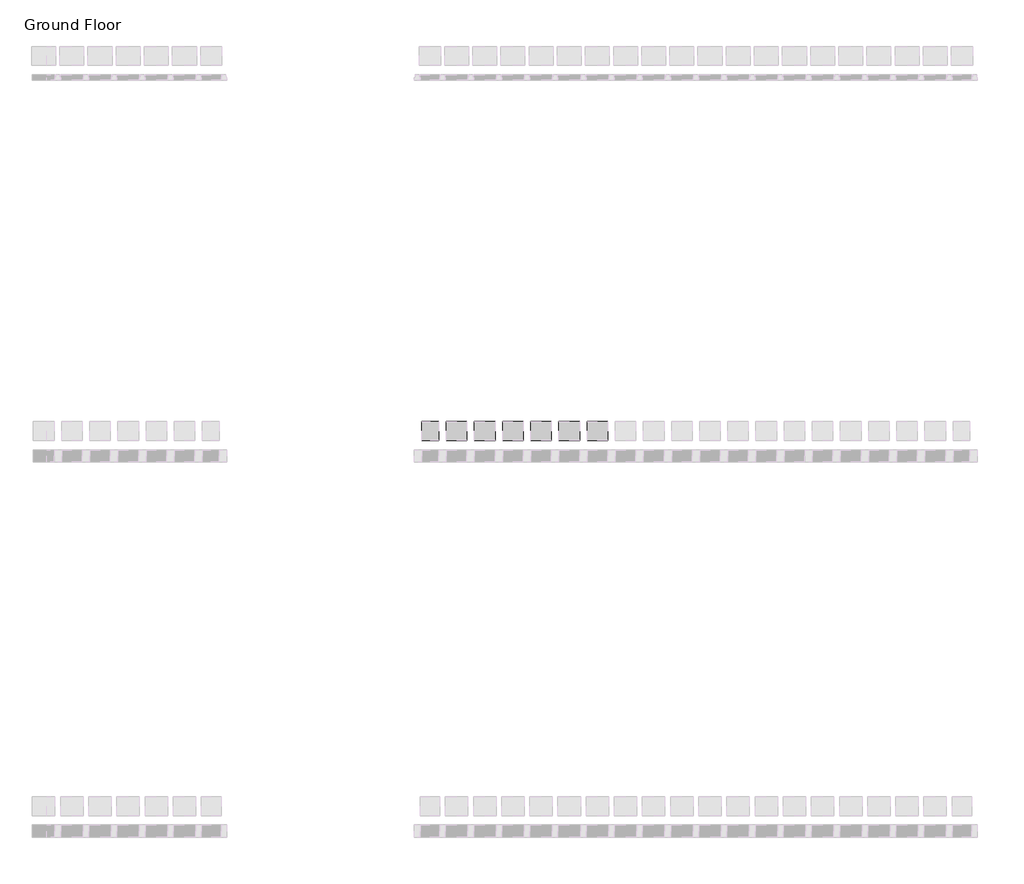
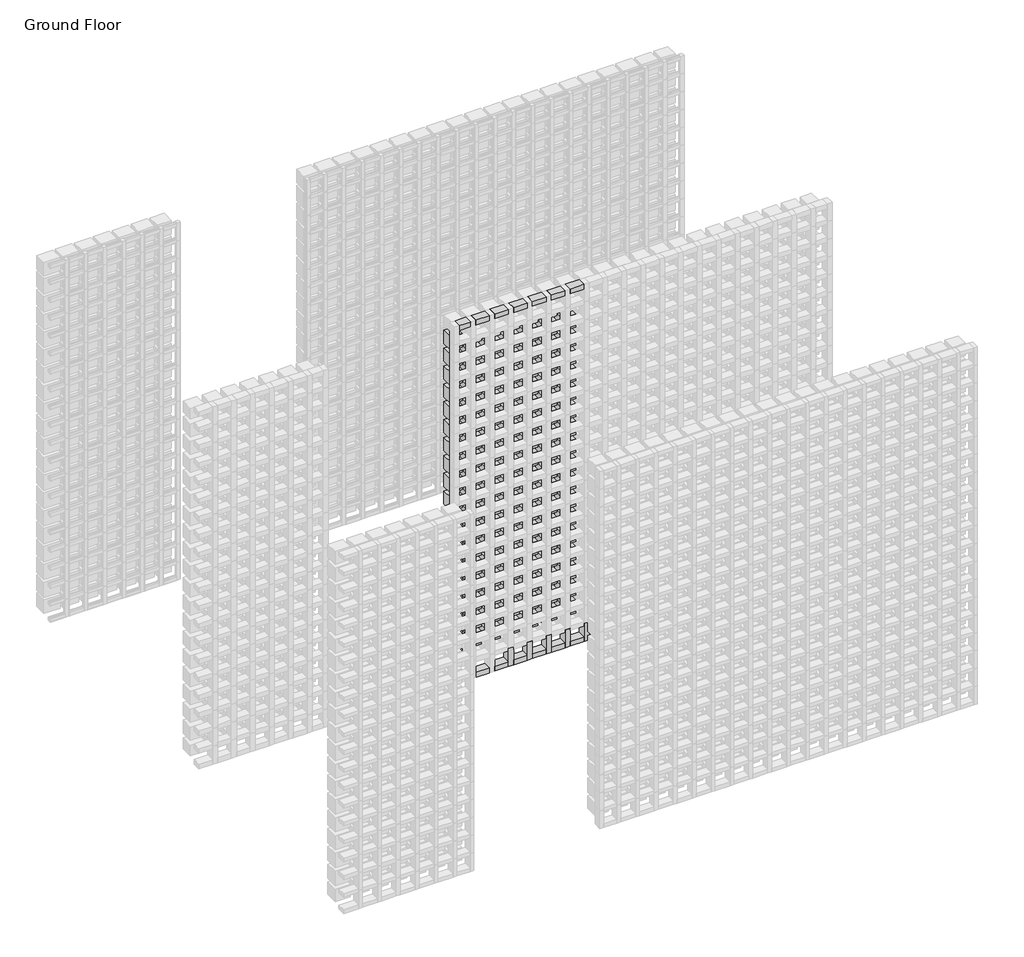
# One storey, part 144 of 350: 120 plates, 19 members.
"""IFC4 building model written with IfcOpenShell, lengths in millimetres."""

from ifc_helpers import new_model, si_unit, origin, place, context, project, spatial, transform, mapped, element, save
from components import rectangular_mullion_655930e9, rectangular_mullion_78309e0b, rectangular_mullion_581565bb, rectangular_mullion_d5b82d3d, empty_system_panel_empty_3b500fad, empty_system_panel_empty_7f4523f5

model = new_model("IFC4")

# Units and contexts
model_context = context("Model", 3, world=origin())
ifc_project = project(units=[si_unit("LENGTHUNIT", "METRE", prefix="MILLI")], contexts=[model_context])

# Site, building, storey
site = spatial("IfcSite", under=ifc_project)
building = spatial("IfcBuilding", under=site)
storey = spatial("IfcBuildingStorey", under=building, Name="Ground Floor", Elevation=0.0)

# Members
placement = place(None, origin())
rectangular_mullion_shape = rectangular_mullion_655930e9(model_context)
element("IfcMember", 1, ObjectType="Rectangular Mullion : Batten_Timber_Modinex_Austratus_Grid_Fascia_40x65_Ironbark", at=placement, inside=storey, context=model_context, shape_type="MappedRepresentation", body=[
    mapped(rectangular_mullion_shape, transform((14366.4361642, 40968.2978302, 0.0), x_axis=(1.0, 0.0, 0.0), y_axis=(0.0, -1.0, 0.0), z_axis=(0.0, 0.0, -1.0))),
])
element("IfcMember", 2, ObjectType="Rectangular Mullion : Batten_Timber_Modinex_Austratus_Grid_Fascia_40x65_Ironbark", at=placement, inside=storey, context=model_context, shape_type="MappedRepresentation", body=[
    mapped(rectangular_mullion_shape, transform((14516.4361642, 40968.2978302, 0.0), x_axis=(1.0, 0.0, 0.0), y_axis=(0.0, -1.0, 0.0), z_axis=(0.0, 0.0, -1.0))),
])
element("IfcMember", 3, ObjectType="Rectangular Mullion : Batten_Timber_Modinex_Austratus_Grid_Fascia_40x65_Ironbark", at=placement, inside=storey, context=model_context, shape_type="MappedRepresentation", body=[
    mapped(rectangular_mullion_shape, transform((14666.4361642, 40968.2978302, 0.0), x_axis=(1.0, 0.0, 0.0), y_axis=(0.0, -1.0, 0.0), z_axis=(0.0, 0.0, -1.0))),
])
element("IfcMember", 4, ObjectType="Rectangular Mullion : Batten_Timber_Modinex_Austratus_Grid_Fascia_40x65_Ironbark", at=placement, inside=storey, context=model_context, shape_type="MappedRepresentation", body=[
    mapped(rectangular_mullion_shape, transform((14816.4361642, 40968.2978302, 0.0), x_axis=(1.0, 0.0, 0.0), y_axis=(0.0, -1.0, 0.0), z_axis=(0.0, 0.0, -1.0))),
])
element("IfcMember", 5, ObjectType="Rectangular Mullion : Batten_Timber_Modinex_Austratus_Grid_Fascia_40x65_Ironbark", at=placement, inside=storey, context=model_context, shape_type="MappedRepresentation", body=[
    mapped(rectangular_mullion_shape, transform((14966.4361642, 40968.2978302, 0.0), x_axis=(1.0, 0.0, 0.0), y_axis=(0.0, -1.0, 0.0), z_axis=(0.0, 0.0, -1.0))),
])
rectangular_mullion_2_shape = rectangular_mullion_78309e0b(model_context)
element("IfcMember", 6, ObjectType="Rectangular Mullion : Batten_Timber_Modinex_Austratus_Grid_Fascia_40x65_Ironbark", at=placement, inside=storey, context=model_context, shape_type="MappedRepresentation", body=[
    mapped(rectangular_mullion_2_shape, transform((14046.4361642, 40968.2978302, 3000.0), x_axis=(0.0, 0.0, 1.0), y_axis=(0.0, -1.0, 0.0), z_axis=(1.0, 0.0, 0.0))),
])
rectangular_mullion_3_shape = rectangular_mullion_581565bb(model_context)
element("IfcMember", 7, ObjectType="Rectangular Mullion : Batten_Timber_Modinex_Austratus_Grid_Fascia_40x65_Ironbark", at=placement, inside=storey, context=model_context, shape_type="MappedRepresentation", body=[
    mapped(rectangular_mullion_3_shape, transform((14196.4361642, 40968.2978302, 3000.0), x_axis=(0.0, 0.0, 1.0), y_axis=(0.0, -1.0, 0.0), z_axis=(1.0, 0.0, 0.0))),
])
element("IfcMember", 8, ObjectType="Rectangular Mullion : Batten_Timber_Modinex_Austratus_Grid_Fascia_40x65_Ironbark", at=placement, inside=storey, context=model_context, shape_type="MappedRepresentation", body=[
    mapped(rectangular_mullion_3_shape, transform((14346.4361642, 40968.2978302, 3000.0), x_axis=(0.0, 0.0, 1.0), y_axis=(0.0, -1.0, 0.0), z_axis=(1.0, 0.0, 0.0))),
])
element("IfcMember", 9, ObjectType="Rectangular Mullion : Batten_Timber_Modinex_Austratus_Grid_Fascia_40x65_Ironbark", at=placement, inside=storey, context=model_context, shape_type="MappedRepresentation", body=[
    mapped(rectangular_mullion_3_shape, transform((14496.4361642, 40968.2978302, 3000.0), x_axis=(0.0, 0.0, 1.0), y_axis=(0.0, -1.0, 0.0), z_axis=(1.0, 0.0, 0.0))),
])
element("IfcMember", 10, ObjectType="Rectangular Mullion : Batten_Timber_Modinex_Austratus_Grid_Fascia_40x65_Ironbark", at=placement, inside=storey, context=model_context, shape_type="MappedRepresentation", body=[
    mapped(rectangular_mullion_3_shape, transform((14646.4361642, 40968.2978302, 3000.0), x_axis=(0.0, 0.0, 1.0), y_axis=(0.0, -1.0, 0.0), z_axis=(1.0, 0.0, 0.0))),
])
element("IfcMember", 11, ObjectType="Rectangular Mullion : Batten_Timber_Modinex_Austratus_Grid_Fascia_40x65_Ironbark", at=placement, inside=storey, context=model_context, shape_type="MappedRepresentation", body=[
    mapped(rectangular_mullion_3_shape, transform((14796.4361642, 40968.2978302, 3000.0), x_axis=(0.0, 0.0, 1.0), y_axis=(0.0, -1.0, 0.0), z_axis=(1.0, 0.0, 0.0))),
])
element("IfcMember", 12, ObjectType="Rectangular Mullion : Batten_Timber_Modinex_Austratus_Grid_Fascia_40x65_Ironbark", at=placement, inside=storey, context=model_context, shape_type="MappedRepresentation", body=[
    mapped(rectangular_mullion_3_shape, transform((14946.4361642, 40968.2978302, 3000.0), x_axis=(0.0, 0.0, 1.0), y_axis=(0.0, -1.0, 0.0), z_axis=(1.0, 0.0, 0.0))),
])
rectangular_mullion_4_shape = rectangular_mullion_d5b82d3d(model_context)
element("IfcMember", 13, ObjectType="Rectangular Mullion : Batten_Timber_Modinex_Austratus_Grid_Fascia_40x65_Ironbark", at=placement, inside=storey, context=model_context, shape_type="MappedRepresentation", body=[
    mapped(rectangular_mullion_4_shape, transform((14086.4361642, 40968.2978302, 0.0), x_axis=(0.0, 0.0, -1.0), y_axis=(0.0, -1.0, 0.0), z_axis=(-1.0, 0.0, 0.0))),
])
element("IfcMember", 14, ObjectType="Rectangular Mullion : Batten_Timber_Modinex_Austratus_Grid_Fascia_40x65_Ironbark", at=placement, inside=storey, context=model_context, shape_type="MappedRepresentation", body=[
    mapped(rectangular_mullion_4_shape, transform((14236.4361642, 40968.2978302, 0.0), x_axis=(0.0, 0.0, -1.0), y_axis=(0.0, -1.0, 0.0), z_axis=(-1.0, 0.0, 0.0))),
])
element("IfcMember", 15, ObjectType="Rectangular Mullion : Batten_Timber_Modinex_Austratus_Grid_Fascia_40x65_Ironbark", at=placement, inside=storey, context=model_context, shape_type="MappedRepresentation", body=[
    mapped(rectangular_mullion_4_shape, transform((14386.4361642, 40968.2978302, 0.0), x_axis=(0.0, 0.0, -1.0), y_axis=(0.0, -1.0, 0.0), z_axis=(-1.0, 0.0, 0.0))),
])
element("IfcMember", 16, ObjectType="Rectangular Mullion : Batten_Timber_Modinex_Austratus_Grid_Fascia_40x65_Ironbark", at=placement, inside=storey, context=model_context, shape_type="MappedRepresentation", body=[
    mapped(rectangular_mullion_4_shape, transform((14536.4361642, 40968.2978302, 0.0), x_axis=(0.0, 0.0, -1.0), y_axis=(0.0, -1.0, 0.0), z_axis=(-1.0, 0.0, 0.0))),
])
element("IfcMember", 17, ObjectType="Rectangular Mullion : Batten_Timber_Modinex_Austratus_Grid_Fascia_40x65_Ironbark", at=placement, inside=storey, context=model_context, shape_type="MappedRepresentation", body=[
    mapped(rectangular_mullion_4_shape, transform((14686.4361642, 40968.2978302, 0.0), x_axis=(0.0, 0.0, -1.0), y_axis=(0.0, -1.0, 0.0), z_axis=(-1.0, 0.0, 0.0))),
])
element("IfcMember", 18, ObjectType="Rectangular Mullion : Batten_Timber_Modinex_Austratus_Grid_Fascia_40x65_Ironbark", at=placement, inside=storey, context=model_context, shape_type="MappedRepresentation", body=[
    mapped(rectangular_mullion_4_shape, transform((14836.4361642, 40968.2978302, 0.0), x_axis=(0.0, 0.0, -1.0), y_axis=(0.0, -1.0, 0.0), z_axis=(-1.0, 0.0, 0.0))),
])
element("IfcMember", 19, ObjectType="Rectangular Mullion : Batten_Timber_Modinex_Austratus_Grid_Fascia_40x65_Ironbark", at=placement, inside=storey, context=model_context, shape_type="MappedRepresentation", body=[
    mapped(rectangular_mullion_4_shape, transform((14986.4361642, 40968.2978302, 0.0), x_axis=(0.0, 0.0, -1.0), y_axis=(0.0, -1.0, 0.0), z_axis=(-1.0, 0.0, 0.0))),
])

# Plates
empty_system_panel_empty_shape = empty_system_panel_empty_3b500fad(model_context)
element("IfcPlate", 20, ObjectType="Empty System Panel : Empty", at=placement, inside=storey, context=model_context, shape_type="MappedRepresentation", body=[
    mapped(empty_system_panel_empty_shape, transform((14141.4361642, 40968.2978302, 170.0), x_axis=(1.0, 0.0, 0.0), y_axis=(0.0, 1.0, 0.0), z_axis=(0.0, 0.0, 1.0))),
])
element("IfcPlate", 21, ObjectType="Empty System Panel : Empty", at=placement, inside=storey, context=model_context, shape_type="MappedRepresentation", body=[
    mapped(empty_system_panel_empty_shape, transform((14291.4361642, 40968.2978302, 170.0), x_axis=(1.0, 0.0, 0.0), y_axis=(0.0, 1.0, 0.0), z_axis=(0.0, 0.0, 1.0))),
])
element("IfcPlate", 22, ObjectType="Empty System Panel : Empty", at=placement, inside=storey, context=model_context, shape_type="MappedRepresentation", body=[
    mapped(empty_system_panel_empty_shape, transform((14441.4361642, 40968.2978302, 170.0), x_axis=(1.0, 0.0, 0.0), y_axis=(0.0, 1.0, 0.0), z_axis=(0.0, 0.0, 1.0))),
])
element("IfcPlate", 23, ObjectType="Empty System Panel : Empty", at=placement, inside=storey, context=model_context, shape_type="MappedRepresentation", body=[
    mapped(empty_system_panel_empty_shape, transform((14591.4361642, 40968.2978302, 170.0), x_axis=(1.0, 0.0, 0.0), y_axis=(0.0, 1.0, 0.0), z_axis=(0.0, 0.0, 1.0))),
])
element("IfcPlate", 24, ObjectType="Empty System Panel : Empty", at=placement, inside=storey, context=model_context, shape_type="MappedRepresentation", body=[
    mapped(empty_system_panel_empty_shape, transform((14741.4361642, 40968.2978302, 170.0), x_axis=(1.0, 0.0, 0.0), y_axis=(0.0, 1.0, 0.0), z_axis=(0.0, 0.0, 1.0))),
])
element("IfcPlate", 25, ObjectType="Empty System Panel : Empty", at=placement, inside=storey, context=model_context, shape_type="MappedRepresentation", body=[
    mapped(empty_system_panel_empty_shape, transform((14891.4361642, 40968.2978302, 170.0), x_axis=(1.0, 0.0, 0.0), y_axis=(0.0, 1.0, 0.0), z_axis=(0.0, 0.0, 1.0))),
])
element("IfcPlate", 26, ObjectType="Empty System Panel : Empty", at=placement, inside=storey, context=model_context, shape_type="MappedRepresentation", body=[
    mapped(empty_system_panel_empty_shape, transform((14141.4361642, 40968.2978302, 320.0), x_axis=(1.0, 0.0, 0.0), y_axis=(0.0, 1.0, 0.0), z_axis=(0.0, 0.0, 1.0))),
])
element("IfcPlate", 27, ObjectType="Empty System Panel : Empty", at=placement, inside=storey, context=model_context, shape_type="MappedRepresentation", body=[
    mapped(empty_system_panel_empty_shape, transform((14291.4361642, 40968.2978302, 320.0), x_axis=(1.0, 0.0, 0.0), y_axis=(0.0, 1.0, 0.0), z_axis=(0.0, 0.0, 1.0))),
])
element("IfcPlate", 28, ObjectType="Empty System Panel : Empty", at=placement, inside=storey, context=model_context, shape_type="MappedRepresentation", body=[
    mapped(empty_system_panel_empty_shape, transform((14441.4361642, 40968.2978302, 320.0), x_axis=(1.0, 0.0, 0.0), y_axis=(0.0, 1.0, 0.0), z_axis=(0.0, 0.0, 1.0))),
])
element("IfcPlate", 29, ObjectType="Empty System Panel : Empty", at=placement, inside=storey, context=model_context, shape_type="MappedRepresentation", body=[
    mapped(empty_system_panel_empty_shape, transform((14591.4361642, 40968.2978302, 320.0), x_axis=(1.0, 0.0, 0.0), y_axis=(0.0, 1.0, 0.0), z_axis=(0.0, 0.0, 1.0))),
])
element("IfcPlate", 30, ObjectType="Empty System Panel : Empty", at=placement, inside=storey, context=model_context, shape_type="MappedRepresentation", body=[
    mapped(empty_system_panel_empty_shape, transform((14741.4361642, 40968.2978302, 320.0), x_axis=(1.0, 0.0, 0.0), y_axis=(0.0, 1.0, 0.0), z_axis=(0.0, 0.0, 1.0))),
])
element("IfcPlate", 31, ObjectType="Empty System Panel : Empty", at=placement, inside=storey, context=model_context, shape_type="MappedRepresentation", body=[
    mapped(empty_system_panel_empty_shape, transform((14891.4361642, 40968.2978302, 320.0), x_axis=(1.0, 0.0, 0.0), y_axis=(0.0, 1.0, 0.0), z_axis=(0.0, 0.0, 1.0))),
])
element("IfcPlate", 32, ObjectType="Empty System Panel : Empty", at=placement, inside=storey, context=model_context, shape_type="MappedRepresentation", body=[
    mapped(empty_system_panel_empty_shape, transform((14141.4361642, 40968.2978302, 470.0), x_axis=(1.0, 0.0, 0.0), y_axis=(0.0, 1.0, 0.0), z_axis=(0.0, 0.0, 1.0))),
])
element("IfcPlate", 33, ObjectType="Empty System Panel : Empty", at=placement, inside=storey, context=model_context, shape_type="MappedRepresentation", body=[
    mapped(empty_system_panel_empty_shape, transform((14291.4361642, 40968.2978302, 470.0), x_axis=(1.0, 0.0, 0.0), y_axis=(0.0, 1.0, 0.0), z_axis=(0.0, 0.0, 1.0))),
])
element("IfcPlate", 34, ObjectType="Empty System Panel : Empty", at=placement, inside=storey, context=model_context, shape_type="MappedRepresentation", body=[
    mapped(empty_system_panel_empty_shape, transform((14441.4361642, 40968.2978302, 470.0), x_axis=(1.0, 0.0, 0.0), y_axis=(0.0, 1.0, 0.0), z_axis=(0.0, 0.0, 1.0))),
])
element("IfcPlate", 35, ObjectType="Empty System Panel : Empty", at=placement, inside=storey, context=model_context, shape_type="MappedRepresentation", body=[
    mapped(empty_system_panel_empty_shape, transform((14591.4361642, 40968.2978302, 470.0), x_axis=(1.0, 0.0, 0.0), y_axis=(0.0, 1.0, 0.0), z_axis=(0.0, 0.0, 1.0))),
])
element("IfcPlate", 36, ObjectType="Empty System Panel : Empty", at=placement, inside=storey, context=model_context, shape_type="MappedRepresentation", body=[
    mapped(empty_system_panel_empty_shape, transform((14741.4361642, 40968.2978302, 470.0), x_axis=(1.0, 0.0, 0.0), y_axis=(0.0, 1.0, 0.0), z_axis=(0.0, 0.0, 1.0))),
])
element("IfcPlate", 37, ObjectType="Empty System Panel : Empty", at=placement, inside=storey, context=model_context, shape_type="MappedRepresentation", body=[
    mapped(empty_system_panel_empty_shape, transform((14891.4361642, 40968.2978302, 470.0), x_axis=(1.0, 0.0, 0.0), y_axis=(0.0, 1.0, 0.0), z_axis=(0.0, 0.0, 1.0))),
])
element("IfcPlate", 38, ObjectType="Empty System Panel : Empty", at=placement, inside=storey, context=model_context, shape_type="MappedRepresentation", body=[
    mapped(empty_system_panel_empty_shape, transform((14141.4361642, 40968.2978302, 620.0), x_axis=(1.0, 0.0, 0.0), y_axis=(0.0, 1.0, 0.0), z_axis=(0.0, 0.0, 1.0))),
])
element("IfcPlate", 39, ObjectType="Empty System Panel : Empty", at=placement, inside=storey, context=model_context, shape_type="MappedRepresentation", body=[
    mapped(empty_system_panel_empty_shape, transform((14291.4361642, 40968.2978302, 620.0), x_axis=(1.0, 0.0, 0.0), y_axis=(0.0, 1.0, 0.0), z_axis=(0.0, 0.0, 1.0))),
])
element("IfcPlate", 40, ObjectType="Empty System Panel : Empty", at=placement, inside=storey, context=model_context, shape_type="MappedRepresentation", body=[
    mapped(empty_system_panel_empty_shape, transform((14441.4361642, 40968.2978302, 620.0), x_axis=(1.0, 0.0, 0.0), y_axis=(0.0, 1.0, 0.0), z_axis=(0.0, 0.0, 1.0))),
])
element("IfcPlate", 41, ObjectType="Empty System Panel : Empty", at=placement, inside=storey, context=model_context, shape_type="MappedRepresentation", body=[
    mapped(empty_system_panel_empty_shape, transform((14591.4361642, 40968.2978302, 620.0), x_axis=(1.0, 0.0, 0.0), y_axis=(0.0, 1.0, 0.0), z_axis=(0.0, 0.0, 1.0))),
])
element("IfcPlate", 42, ObjectType="Empty System Panel : Empty", at=placement, inside=storey, context=model_context, shape_type="MappedRepresentation", body=[
    mapped(empty_system_panel_empty_shape, transform((14741.4361642, 40968.2978302, 620.0), x_axis=(1.0, 0.0, 0.0), y_axis=(0.0, 1.0, 0.0), z_axis=(0.0, 0.0, 1.0))),
])
element("IfcPlate", 43, ObjectType="Empty System Panel : Empty", at=placement, inside=storey, context=model_context, shape_type="MappedRepresentation", body=[
    mapped(empty_system_panel_empty_shape, transform((14891.4361642, 40968.2978302, 620.0), x_axis=(1.0, 0.0, 0.0), y_axis=(0.0, 1.0, 0.0), z_axis=(0.0, 0.0, 1.0))),
])
element("IfcPlate", 44, ObjectType="Empty System Panel : Empty", at=placement, inside=storey, context=model_context, shape_type="MappedRepresentation", body=[
    mapped(empty_system_panel_empty_shape, transform((14141.4361642, 40968.2978302, 770.0), x_axis=(1.0, 0.0, 0.0), y_axis=(0.0, 1.0, 0.0), z_axis=(0.0, 0.0, 1.0))),
])
element("IfcPlate", 45, ObjectType="Empty System Panel : Empty", at=placement, inside=storey, context=model_context, shape_type="MappedRepresentation", body=[
    mapped(empty_system_panel_empty_shape, transform((14291.4361642, 40968.2978302, 770.0), x_axis=(1.0, 0.0, 0.0), y_axis=(0.0, 1.0, 0.0), z_axis=(0.0, 0.0, 1.0))),
])
element("IfcPlate", 46, ObjectType="Empty System Panel : Empty", at=placement, inside=storey, context=model_context, shape_type="MappedRepresentation", body=[
    mapped(empty_system_panel_empty_shape, transform((14441.4361642, 40968.2978302, 770.0), x_axis=(1.0, 0.0, 0.0), y_axis=(0.0, 1.0, 0.0), z_axis=(0.0, 0.0, 1.0))),
])
element("IfcPlate", 47, ObjectType="Empty System Panel : Empty", at=placement, inside=storey, context=model_context, shape_type="MappedRepresentation", body=[
    mapped(empty_system_panel_empty_shape, transform((14591.4361642, 40968.2978302, 770.0), x_axis=(1.0, 0.0, 0.0), y_axis=(0.0, 1.0, 0.0), z_axis=(0.0, 0.0, 1.0))),
])
element("IfcPlate", 48, ObjectType="Empty System Panel : Empty", at=placement, inside=storey, context=model_context, shape_type="MappedRepresentation", body=[
    mapped(empty_system_panel_empty_shape, transform((14741.4361642, 40968.2978302, 770.0), x_axis=(1.0, 0.0, 0.0), y_axis=(0.0, 1.0, 0.0), z_axis=(0.0, 0.0, 1.0))),
])
element("IfcPlate", 49, ObjectType="Empty System Panel : Empty", at=placement, inside=storey, context=model_context, shape_type="MappedRepresentation", body=[
    mapped(empty_system_panel_empty_shape, transform((14891.4361642, 40968.2978302, 770.0), x_axis=(1.0, 0.0, 0.0), y_axis=(0.0, 1.0, 0.0), z_axis=(0.0, 0.0, 1.0))),
])
element("IfcPlate", 50, ObjectType="Empty System Panel : Empty", at=placement, inside=storey, context=model_context, shape_type="MappedRepresentation", body=[
    mapped(empty_system_panel_empty_shape, transform((14141.4361642, 40968.2978302, 920.0), x_axis=(1.0, 0.0, 0.0), y_axis=(0.0, 1.0, 0.0), z_axis=(0.0, 0.0, 1.0))),
])
element("IfcPlate", 51, ObjectType="Empty System Panel : Empty", at=placement, inside=storey, context=model_context, shape_type="MappedRepresentation", body=[
    mapped(empty_system_panel_empty_shape, transform((14291.4361642, 40968.2978302, 920.0), x_axis=(1.0, 0.0, 0.0), y_axis=(0.0, 1.0, 0.0), z_axis=(0.0, 0.0, 1.0))),
])
element("IfcPlate", 52, ObjectType="Empty System Panel : Empty", at=placement, inside=storey, context=model_context, shape_type="MappedRepresentation", body=[
    mapped(empty_system_panel_empty_shape, transform((14441.4361642, 40968.2978302, 920.0), x_axis=(1.0, 0.0, 0.0), y_axis=(0.0, 1.0, 0.0), z_axis=(0.0, 0.0, 1.0))),
])
element("IfcPlate", 53, ObjectType="Empty System Panel : Empty", at=placement, inside=storey, context=model_context, shape_type="MappedRepresentation", body=[
    mapped(empty_system_panel_empty_shape, transform((14591.4361642, 40968.2978302, 920.0), x_axis=(1.0, 0.0, 0.0), y_axis=(0.0, 1.0, 0.0), z_axis=(0.0, 0.0, 1.0))),
])
element("IfcPlate", 54, ObjectType="Empty System Panel : Empty", at=placement, inside=storey, context=model_context, shape_type="MappedRepresentation", body=[
    mapped(empty_system_panel_empty_shape, transform((14741.4361642, 40968.2978302, 920.0), x_axis=(1.0, 0.0, 0.0), y_axis=(0.0, 1.0, 0.0), z_axis=(0.0, 0.0, 1.0))),
])
element("IfcPlate", 55, ObjectType="Empty System Panel : Empty", at=placement, inside=storey, context=model_context, shape_type="MappedRepresentation", body=[
    mapped(empty_system_panel_empty_shape, transform((14891.4361642, 40968.2978302, 920.0), x_axis=(1.0, 0.0, 0.0), y_axis=(0.0, 1.0, 0.0), z_axis=(0.0, 0.0, 1.0))),
])
element("IfcPlate", 56, ObjectType="Empty System Panel : Empty", at=placement, inside=storey, context=model_context, shape_type="MappedRepresentation", body=[
    mapped(empty_system_panel_empty_shape, transform((14141.4361642, 40968.2978302, 1070.0), x_axis=(1.0, 0.0, 0.0), y_axis=(0.0, 1.0, 0.0), z_axis=(0.0, 0.0, 1.0))),
])
element("IfcPlate", 57, ObjectType="Empty System Panel : Empty", at=placement, inside=storey, context=model_context, shape_type="MappedRepresentation", body=[
    mapped(empty_system_panel_empty_shape, transform((14291.4361642, 40968.2978302, 1070.0), x_axis=(1.0, 0.0, 0.0), y_axis=(0.0, 1.0, 0.0), z_axis=(0.0, 0.0, 1.0))),
])
element("IfcPlate", 58, ObjectType="Empty System Panel : Empty", at=placement, inside=storey, context=model_context, shape_type="MappedRepresentation", body=[
    mapped(empty_system_panel_empty_shape, transform((14441.4361642, 40968.2978302, 1070.0), x_axis=(1.0, 0.0, 0.0), y_axis=(0.0, 1.0, 0.0), z_axis=(0.0, 0.0, 1.0))),
])
element("IfcPlate", 59, ObjectType="Empty System Panel : Empty", at=placement, inside=storey, context=model_context, shape_type="MappedRepresentation", body=[
    mapped(empty_system_panel_empty_shape, transform((14591.4361642, 40968.2978302, 1070.0), x_axis=(1.0, 0.0, 0.0), y_axis=(0.0, 1.0, 0.0), z_axis=(0.0, 0.0, 1.0))),
])
element("IfcPlate", 60, ObjectType="Empty System Panel : Empty", at=placement, inside=storey, context=model_context, shape_type="MappedRepresentation", body=[
    mapped(empty_system_panel_empty_shape, transform((14741.4361642, 40968.2978302, 1070.0), x_axis=(1.0, 0.0, 0.0), y_axis=(0.0, 1.0, 0.0), z_axis=(0.0, 0.0, 1.0))),
])
element("IfcPlate", 61, ObjectType="Empty System Panel : Empty", at=placement, inside=storey, context=model_context, shape_type="MappedRepresentation", body=[
    mapped(empty_system_panel_empty_shape, transform((14891.4361642, 40968.2978302, 1070.0), x_axis=(1.0, 0.0, 0.0), y_axis=(0.0, 1.0, 0.0), z_axis=(0.0, 0.0, 1.0))),
])
element("IfcPlate", 62, ObjectType="Empty System Panel : Empty", at=placement, inside=storey, context=model_context, shape_type="MappedRepresentation", body=[
    mapped(empty_system_panel_empty_shape, transform((14141.4361642, 40968.2978302, 1220.0), x_axis=(1.0, 0.0, 0.0), y_axis=(0.0, 1.0, 0.0), z_axis=(0.0, 0.0, 1.0))),
])
element("IfcPlate", 63, ObjectType="Empty System Panel : Empty", at=placement, inside=storey, context=model_context, shape_type="MappedRepresentation", body=[
    mapped(empty_system_panel_empty_shape, transform((14291.4361642, 40968.2978302, 1220.0), x_axis=(1.0, 0.0, 0.0), y_axis=(0.0, 1.0, 0.0), z_axis=(0.0, 0.0, 1.0))),
])
element("IfcPlate", 64, ObjectType="Empty System Panel : Empty", at=placement, inside=storey, context=model_context, shape_type="MappedRepresentation", body=[
    mapped(empty_system_panel_empty_shape, transform((14441.4361642, 40968.2978302, 1220.0), x_axis=(1.0, 0.0, 0.0), y_axis=(0.0, 1.0, 0.0), z_axis=(0.0, 0.0, 1.0))),
])
element("IfcPlate", 65, ObjectType="Empty System Panel : Empty", at=placement, inside=storey, context=model_context, shape_type="MappedRepresentation", body=[
    mapped(empty_system_panel_empty_shape, transform((14591.4361642, 40968.2978302, 1220.0), x_axis=(1.0, 0.0, 0.0), y_axis=(0.0, 1.0, 0.0), z_axis=(0.0, 0.0, 1.0))),
])
element("IfcPlate", 66, ObjectType="Empty System Panel : Empty", at=placement, inside=storey, context=model_context, shape_type="MappedRepresentation", body=[
    mapped(empty_system_panel_empty_shape, transform((14741.4361642, 40968.2978302, 1220.0), x_axis=(1.0, 0.0, 0.0), y_axis=(0.0, 1.0, 0.0), z_axis=(0.0, 0.0, 1.0))),
])
element("IfcPlate", 67, ObjectType="Empty System Panel : Empty", at=placement, inside=storey, context=model_context, shape_type="MappedRepresentation", body=[
    mapped(empty_system_panel_empty_shape, transform((14891.4361642, 40968.2978302, 1220.0), x_axis=(1.0, 0.0, 0.0), y_axis=(0.0, 1.0, 0.0), z_axis=(0.0, 0.0, 1.0))),
])
element("IfcPlate", 68, ObjectType="Empty System Panel : Empty", at=placement, inside=storey, context=model_context, shape_type="MappedRepresentation", body=[
    mapped(empty_system_panel_empty_shape, transform((14141.4361642, 40968.2978302, 1370.0), x_axis=(1.0, 0.0, 0.0), y_axis=(0.0, 1.0, 0.0), z_axis=(0.0, 0.0, 1.0))),
])
element("IfcPlate", 69, ObjectType="Empty System Panel : Empty", at=placement, inside=storey, context=model_context, shape_type="MappedRepresentation", body=[
    mapped(empty_system_panel_empty_shape, transform((14291.4361642, 40968.2978302, 1370.0), x_axis=(1.0, 0.0, 0.0), y_axis=(0.0, 1.0, 0.0), z_axis=(0.0, 0.0, 1.0))),
])
element("IfcPlate", 70, ObjectType="Empty System Panel : Empty", at=placement, inside=storey, context=model_context, shape_type="MappedRepresentation", body=[
    mapped(empty_system_panel_empty_shape, transform((14441.4361642, 40968.2978302, 1370.0), x_axis=(1.0, 0.0, 0.0), y_axis=(0.0, 1.0, 0.0), z_axis=(0.0, 0.0, 1.0))),
])
element("IfcPlate", 71, ObjectType="Empty System Panel : Empty", at=placement, inside=storey, context=model_context, shape_type="MappedRepresentation", body=[
    mapped(empty_system_panel_empty_shape, transform((14591.4361642, 40968.2978302, 1370.0), x_axis=(1.0, 0.0, 0.0), y_axis=(0.0, 1.0, 0.0), z_axis=(0.0, 0.0, 1.0))),
])
element("IfcPlate", 72, ObjectType="Empty System Panel : Empty", at=placement, inside=storey, context=model_context, shape_type="MappedRepresentation", body=[
    mapped(empty_system_panel_empty_shape, transform((14741.4361642, 40968.2978302, 1370.0), x_axis=(1.0, 0.0, 0.0), y_axis=(0.0, 1.0, 0.0), z_axis=(0.0, 0.0, 1.0))),
])
element("IfcPlate", 73, ObjectType="Empty System Panel : Empty", at=placement, inside=storey, context=model_context, shape_type="MappedRepresentation", body=[
    mapped(empty_system_panel_empty_shape, transform((14891.4361642, 40968.2978302, 1370.0), x_axis=(1.0, 0.0, 0.0), y_axis=(0.0, 1.0, 0.0), z_axis=(0.0, 0.0, 1.0))),
])
element("IfcPlate", 74, ObjectType="Empty System Panel : Empty", at=placement, inside=storey, context=model_context, shape_type="MappedRepresentation", body=[
    mapped(empty_system_panel_empty_shape, transform((14141.4361642, 40968.2978302, 1520.0), x_axis=(1.0, 0.0, 0.0), y_axis=(0.0, 1.0, 0.0), z_axis=(0.0, 0.0, 1.0))),
])
element("IfcPlate", 75, ObjectType="Empty System Panel : Empty", at=placement, inside=storey, context=model_context, shape_type="MappedRepresentation", body=[
    mapped(empty_system_panel_empty_shape, transform((14291.4361642, 40968.2978302, 1520.0), x_axis=(1.0, 0.0, 0.0), y_axis=(0.0, 1.0, 0.0), z_axis=(0.0, 0.0, 1.0))),
])
element("IfcPlate", 76, ObjectType="Empty System Panel : Empty", at=placement, inside=storey, context=model_context, shape_type="MappedRepresentation", body=[
    mapped(empty_system_panel_empty_shape, transform((14441.4361642, 40968.2978302, 1520.0), x_axis=(1.0, 0.0, 0.0), y_axis=(0.0, 1.0, 0.0), z_axis=(0.0, 0.0, 1.0))),
])
element("IfcPlate", 77, ObjectType="Empty System Panel : Empty", at=placement, inside=storey, context=model_context, shape_type="MappedRepresentation", body=[
    mapped(empty_system_panel_empty_shape, transform((14591.4361642, 40968.2978302, 1520.0), x_axis=(1.0, 0.0, 0.0), y_axis=(0.0, 1.0, 0.0), z_axis=(0.0, 0.0, 1.0))),
])
element("IfcPlate", 78, ObjectType="Empty System Panel : Empty", at=placement, inside=storey, context=model_context, shape_type="MappedRepresentation", body=[
    mapped(empty_system_panel_empty_shape, transform((14741.4361642, 40968.2978302, 1520.0), x_axis=(1.0, 0.0, 0.0), y_axis=(0.0, 1.0, 0.0), z_axis=(0.0, 0.0, 1.0))),
])
element("IfcPlate", 79, ObjectType="Empty System Panel : Empty", at=placement, inside=storey, context=model_context, shape_type="MappedRepresentation", body=[
    mapped(empty_system_panel_empty_shape, transform((14891.4361642, 40968.2978302, 1520.0), x_axis=(1.0, 0.0, 0.0), y_axis=(0.0, 1.0, 0.0), z_axis=(0.0, 0.0, 1.0))),
])
element("IfcPlate", 80, ObjectType="Empty System Panel : Empty", at=placement, inside=storey, context=model_context, shape_type="MappedRepresentation", body=[
    mapped(empty_system_panel_empty_shape, transform((14141.4361642, 40968.2978302, 1670.0), x_axis=(1.0, 0.0, 0.0), y_axis=(0.0, 1.0, 0.0), z_axis=(0.0, 0.0, 1.0))),
])
element("IfcPlate", 81, ObjectType="Empty System Panel : Empty", at=placement, inside=storey, context=model_context, shape_type="MappedRepresentation", body=[
    mapped(empty_system_panel_empty_shape, transform((14291.4361642, 40968.2978302, 1670.0), x_axis=(1.0, 0.0, 0.0), y_axis=(0.0, 1.0, 0.0), z_axis=(0.0, 0.0, 1.0))),
])
element("IfcPlate", 82, ObjectType="Empty System Panel : Empty", at=placement, inside=storey, context=model_context, shape_type="MappedRepresentation", body=[
    mapped(empty_system_panel_empty_shape, transform((14441.4361642, 40968.2978302, 1670.0), x_axis=(1.0, 0.0, 0.0), y_axis=(0.0, 1.0, 0.0), z_axis=(0.0, 0.0, 1.0))),
])
element("IfcPlate", 83, ObjectType="Empty System Panel : Empty", at=placement, inside=storey, context=model_context, shape_type="MappedRepresentation", body=[
    mapped(empty_system_panel_empty_shape, transform((14591.4361642, 40968.2978302, 1670.0), x_axis=(1.0, 0.0, 0.0), y_axis=(0.0, 1.0, 0.0), z_axis=(0.0, 0.0, 1.0))),
])
element("IfcPlate", 84, ObjectType="Empty System Panel : Empty", at=placement, inside=storey, context=model_context, shape_type="MappedRepresentation", body=[
    mapped(empty_system_panel_empty_shape, transform((14741.4361642, 40968.2978302, 1670.0), x_axis=(1.0, 0.0, 0.0), y_axis=(0.0, 1.0, 0.0), z_axis=(0.0, 0.0, 1.0))),
])
element("IfcPlate", 85, ObjectType="Empty System Panel : Empty", at=placement, inside=storey, context=model_context, shape_type="MappedRepresentation", body=[
    mapped(empty_system_panel_empty_shape, transform((14891.4361642, 40968.2978302, 1670.0), x_axis=(1.0, 0.0, 0.0), y_axis=(0.0, 1.0, 0.0), z_axis=(0.0, 0.0, 1.0))),
])
element("IfcPlate", 86, ObjectType="Empty System Panel : Empty", at=placement, inside=storey, context=model_context, shape_type="MappedRepresentation", body=[
    mapped(empty_system_panel_empty_shape, transform((14141.4361642, 40968.2978302, 1820.0), x_axis=(1.0, 0.0, 0.0), y_axis=(0.0, 1.0, 0.0), z_axis=(0.0, 0.0, 1.0))),
])
element("IfcPlate", 87, ObjectType="Empty System Panel : Empty", at=placement, inside=storey, context=model_context, shape_type="MappedRepresentation", body=[
    mapped(empty_system_panel_empty_shape, transform((14291.4361642, 40968.2978302, 1820.0), x_axis=(1.0, 0.0, 0.0), y_axis=(0.0, 1.0, 0.0), z_axis=(0.0, 0.0, 1.0))),
])
element("IfcPlate", 88, ObjectType="Empty System Panel : Empty", at=placement, inside=storey, context=model_context, shape_type="MappedRepresentation", body=[
    mapped(empty_system_panel_empty_shape, transform((14441.4361642, 40968.2978302, 1820.0), x_axis=(1.0, 0.0, 0.0), y_axis=(0.0, 1.0, 0.0), z_axis=(0.0, 0.0, 1.0))),
])
element("IfcPlate", 89, ObjectType="Empty System Panel : Empty", at=placement, inside=storey, context=model_context, shape_type="MappedRepresentation", body=[
    mapped(empty_system_panel_empty_shape, transform((14591.4361642, 40968.2978302, 1820.0), x_axis=(1.0, 0.0, 0.0), y_axis=(0.0, 1.0, 0.0), z_axis=(0.0, 0.0, 1.0))),
])
element("IfcPlate", 90, ObjectType="Empty System Panel : Empty", at=placement, inside=storey, context=model_context, shape_type="MappedRepresentation", body=[
    mapped(empty_system_panel_empty_shape, transform((14741.4361642, 40968.2978302, 1820.0), x_axis=(1.0, 0.0, 0.0), y_axis=(0.0, 1.0, 0.0), z_axis=(0.0, 0.0, 1.0))),
])
element("IfcPlate", 91, ObjectType="Empty System Panel : Empty", at=placement, inside=storey, context=model_context, shape_type="MappedRepresentation", body=[
    mapped(empty_system_panel_empty_shape, transform((14891.4361642, 40968.2978302, 1820.0), x_axis=(1.0, 0.0, 0.0), y_axis=(0.0, 1.0, 0.0), z_axis=(0.0, 0.0, 1.0))),
])
element("IfcPlate", 92, ObjectType="Empty System Panel : Empty", at=placement, inside=storey, context=model_context, shape_type="MappedRepresentation", body=[
    mapped(empty_system_panel_empty_shape, transform((14141.4361642, 40968.2978302, 1970.0), x_axis=(1.0, 0.0, 0.0), y_axis=(0.0, 1.0, 0.0), z_axis=(0.0, 0.0, 1.0))),
])
element("IfcPlate", 93, ObjectType="Empty System Panel : Empty", at=placement, inside=storey, context=model_context, shape_type="MappedRepresentation", body=[
    mapped(empty_system_panel_empty_shape, transform((14291.4361642, 40968.2978302, 1970.0), x_axis=(1.0, 0.0, 0.0), y_axis=(0.0, 1.0, 0.0), z_axis=(0.0, 0.0, 1.0))),
])
element("IfcPlate", 94, ObjectType="Empty System Panel : Empty", at=placement, inside=storey, context=model_context, shape_type="MappedRepresentation", body=[
    mapped(empty_system_panel_empty_shape, transform((14441.4361642, 40968.2978302, 1970.0), x_axis=(1.0, 0.0, 0.0), y_axis=(0.0, 1.0, 0.0), z_axis=(0.0, 0.0, 1.0))),
])
element("IfcPlate", 95, ObjectType="Empty System Panel : Empty", at=placement, inside=storey, context=model_context, shape_type="MappedRepresentation", body=[
    mapped(empty_system_panel_empty_shape, transform((14591.4361642, 40968.2978302, 1970.0), x_axis=(1.0, 0.0, 0.0), y_axis=(0.0, 1.0, 0.0), z_axis=(0.0, 0.0, 1.0))),
])
element("IfcPlate", 96, ObjectType="Empty System Panel : Empty", at=placement, inside=storey, context=model_context, shape_type="MappedRepresentation", body=[
    mapped(empty_system_panel_empty_shape, transform((14741.4361642, 40968.2978302, 1970.0), x_axis=(1.0, 0.0, 0.0), y_axis=(0.0, 1.0, 0.0), z_axis=(0.0, 0.0, 1.0))),
])
element("IfcPlate", 97, ObjectType="Empty System Panel : Empty", at=placement, inside=storey, context=model_context, shape_type="MappedRepresentation", body=[
    mapped(empty_system_panel_empty_shape, transform((14891.4361642, 40968.2978302, 1970.0), x_axis=(1.0, 0.0, 0.0), y_axis=(0.0, 1.0, 0.0), z_axis=(0.0, 0.0, 1.0))),
])
element("IfcPlate", 98, ObjectType="Empty System Panel : Empty", at=placement, inside=storey, context=model_context, shape_type="MappedRepresentation", body=[
    mapped(empty_system_panel_empty_shape, transform((14141.4361642, 40968.2978302, 2120.0), x_axis=(1.0, 0.0, 0.0), y_axis=(0.0, 1.0, 0.0), z_axis=(0.0, 0.0, 1.0))),
])
element("IfcPlate", 99, ObjectType="Empty System Panel : Empty", at=placement, inside=storey, context=model_context, shape_type="MappedRepresentation", body=[
    mapped(empty_system_panel_empty_shape, transform((14291.4361642, 40968.2978302, 2120.0), x_axis=(1.0, 0.0, 0.0), y_axis=(0.0, 1.0, 0.0), z_axis=(0.0, 0.0, 1.0))),
])
element("IfcPlate", 100, ObjectType="Empty System Panel : Empty", at=placement, inside=storey, context=model_context, shape_type="MappedRepresentation", body=[
    mapped(empty_system_panel_empty_shape, transform((14441.4361642, 40968.2978302, 2120.0), x_axis=(1.0, 0.0, 0.0), y_axis=(0.0, 1.0, 0.0), z_axis=(0.0, 0.0, 1.0))),
])
element("IfcPlate", 101, ObjectType="Empty System Panel : Empty", at=placement, inside=storey, context=model_context, shape_type="MappedRepresentation", body=[
    mapped(empty_system_panel_empty_shape, transform((14591.4361642, 40968.2978302, 2120.0), x_axis=(1.0, 0.0, 0.0), y_axis=(0.0, 1.0, 0.0), z_axis=(0.0, 0.0, 1.0))),
])
element("IfcPlate", 102, ObjectType="Empty System Panel : Empty", at=placement, inside=storey, context=model_context, shape_type="MappedRepresentation", body=[
    mapped(empty_system_panel_empty_shape, transform((14741.4361642, 40968.2978302, 2120.0), x_axis=(1.0, 0.0, 0.0), y_axis=(0.0, 1.0, 0.0), z_axis=(0.0, 0.0, 1.0))),
])
element("IfcPlate", 103, ObjectType="Empty System Panel : Empty", at=placement, inside=storey, context=model_context, shape_type="MappedRepresentation", body=[
    mapped(empty_system_panel_empty_shape, transform((14891.4361642, 40968.2978302, 2120.0), x_axis=(1.0, 0.0, 0.0), y_axis=(0.0, 1.0, 0.0), z_axis=(0.0, 0.0, 1.0))),
])
element("IfcPlate", 104, ObjectType="Empty System Panel : Empty", at=placement, inside=storey, context=model_context, shape_type="MappedRepresentation", body=[
    mapped(empty_system_panel_empty_shape, transform((14141.4361642, 40968.2978302, 2270.0), x_axis=(1.0, 0.0, 0.0), y_axis=(0.0, 1.0, 0.0), z_axis=(0.0, 0.0, 1.0))),
])
element("IfcPlate", 105, ObjectType="Empty System Panel : Empty", at=placement, inside=storey, context=model_context, shape_type="MappedRepresentation", body=[
    mapped(empty_system_panel_empty_shape, transform((14291.4361642, 40968.2978302, 2270.0), x_axis=(1.0, 0.0, 0.0), y_axis=(0.0, 1.0, 0.0), z_axis=(0.0, 0.0, 1.0))),
])
element("IfcPlate", 106, ObjectType="Empty System Panel : Empty", at=placement, inside=storey, context=model_context, shape_type="MappedRepresentation", body=[
    mapped(empty_system_panel_empty_shape, transform((14441.4361642, 40968.2978302, 2270.0), x_axis=(1.0, 0.0, 0.0), y_axis=(0.0, 1.0, 0.0), z_axis=(0.0, 0.0, 1.0))),
])
element("IfcPlate", 107, ObjectType="Empty System Panel : Empty", at=placement, inside=storey, context=model_context, shape_type="MappedRepresentation", body=[
    mapped(empty_system_panel_empty_shape, transform((14591.4361642, 40968.2978302, 2270.0), x_axis=(1.0, 0.0, 0.0), y_axis=(0.0, 1.0, 0.0), z_axis=(0.0, 0.0, 1.0))),
])
element("IfcPlate", 108, ObjectType="Empty System Panel : Empty", at=placement, inside=storey, context=model_context, shape_type="MappedRepresentation", body=[
    mapped(empty_system_panel_empty_shape, transform((14741.4361642, 40968.2978302, 2270.0), x_axis=(1.0, 0.0, 0.0), y_axis=(0.0, 1.0, 0.0), z_axis=(0.0, 0.0, 1.0))),
])
element("IfcPlate", 109, ObjectType="Empty System Panel : Empty", at=placement, inside=storey, context=model_context, shape_type="MappedRepresentation", body=[
    mapped(empty_system_panel_empty_shape, transform((14891.4361642, 40968.2978302, 2270.0), x_axis=(1.0, 0.0, 0.0), y_axis=(0.0, 1.0, 0.0), z_axis=(0.0, 0.0, 1.0))),
])
element("IfcPlate", 110, ObjectType="Empty System Panel : Empty", at=placement, inside=storey, context=model_context, shape_type="MappedRepresentation", body=[
    mapped(empty_system_panel_empty_shape, transform((14141.4361642, 40968.2978302, 2420.0), x_axis=(1.0, 0.0, 0.0), y_axis=(0.0, 1.0, 0.0), z_axis=(0.0, 0.0, 1.0))),
])
element("IfcPlate", 111, ObjectType="Empty System Panel : Empty", at=placement, inside=storey, context=model_context, shape_type="MappedRepresentation", body=[
    mapped(empty_system_panel_empty_shape, transform((14291.4361642, 40968.2978302, 2420.0), x_axis=(1.0, 0.0, 0.0), y_axis=(0.0, 1.0, 0.0), z_axis=(0.0, 0.0, 1.0))),
])
element("IfcPlate", 112, ObjectType="Empty System Panel : Empty", at=placement, inside=storey, context=model_context, shape_type="MappedRepresentation", body=[
    mapped(empty_system_panel_empty_shape, transform((14441.4361642, 40968.2978302, 2420.0), x_axis=(1.0, 0.0, 0.0), y_axis=(0.0, 1.0, 0.0), z_axis=(0.0, 0.0, 1.0))),
])
element("IfcPlate", 113, ObjectType="Empty System Panel : Empty", at=placement, inside=storey, context=model_context, shape_type="MappedRepresentation", body=[
    mapped(empty_system_panel_empty_shape, transform((14591.4361642, 40968.2978302, 2420.0), x_axis=(1.0, 0.0, 0.0), y_axis=(0.0, 1.0, 0.0), z_axis=(0.0, 0.0, 1.0))),
])
element("IfcPlate", 114, ObjectType="Empty System Panel : Empty", at=placement, inside=storey, context=model_context, shape_type="MappedRepresentation", body=[
    mapped(empty_system_panel_empty_shape, transform((14741.4361642, 40968.2978302, 2420.0), x_axis=(1.0, 0.0, 0.0), y_axis=(0.0, 1.0, 0.0), z_axis=(0.0, 0.0, 1.0))),
])
element("IfcPlate", 115, ObjectType="Empty System Panel : Empty", at=placement, inside=storey, context=model_context, shape_type="MappedRepresentation", body=[
    mapped(empty_system_panel_empty_shape, transform((14891.4361642, 40968.2978302, 2420.0), x_axis=(1.0, 0.0, 0.0), y_axis=(0.0, 1.0, 0.0), z_axis=(0.0, 0.0, 1.0))),
])
element("IfcPlate", 116, ObjectType="Empty System Panel : Empty", at=placement, inside=storey, context=model_context, shape_type="MappedRepresentation", body=[
    mapped(empty_system_panel_empty_shape, transform((14141.4361642, 40968.2978302, 2570.0), x_axis=(1.0, 0.0, 0.0), y_axis=(0.0, 1.0, 0.0), z_axis=(0.0, 0.0, 1.0))),
])
element("IfcPlate", 117, ObjectType="Empty System Panel : Empty", at=placement, inside=storey, context=model_context, shape_type="MappedRepresentation", body=[
    mapped(empty_system_panel_empty_shape, transform((14291.4361642, 40968.2978302, 2570.0), x_axis=(1.0, 0.0, 0.0), y_axis=(0.0, 1.0, 0.0), z_axis=(0.0, 0.0, 1.0))),
])
element("IfcPlate", 118, ObjectType="Empty System Panel : Empty", at=placement, inside=storey, context=model_context, shape_type="MappedRepresentation", body=[
    mapped(empty_system_panel_empty_shape, transform((14441.4361642, 40968.2978302, 2570.0), x_axis=(1.0, 0.0, 0.0), y_axis=(0.0, 1.0, 0.0), z_axis=(0.0, 0.0, 1.0))),
])
element("IfcPlate", 119, ObjectType="Empty System Panel : Empty", at=placement, inside=storey, context=model_context, shape_type="MappedRepresentation", body=[
    mapped(empty_system_panel_empty_shape, transform((14591.4361642, 40968.2978302, 2570.0), x_axis=(1.0, 0.0, 0.0), y_axis=(0.0, 1.0, 0.0), z_axis=(0.0, 0.0, 1.0))),
])
element("IfcPlate", 120, ObjectType="Empty System Panel : Empty", at=placement, inside=storey, context=model_context, shape_type="MappedRepresentation", body=[
    mapped(empty_system_panel_empty_shape, transform((14741.4361642, 40968.2978302, 2570.0), x_axis=(1.0, 0.0, 0.0), y_axis=(0.0, 1.0, 0.0), z_axis=(0.0, 0.0, 1.0))),
])
element("IfcPlate", 121, ObjectType="Empty System Panel : Empty", at=placement, inside=storey, context=model_context, shape_type="MappedRepresentation", body=[
    mapped(empty_system_panel_empty_shape, transform((14891.4361642, 40968.2978302, 2570.0), x_axis=(1.0, 0.0, 0.0), y_axis=(0.0, 1.0, 0.0), z_axis=(0.0, 0.0, 1.0))),
])
empty_system_panel_empty_2_shape = empty_system_panel_empty_7f4523f5(model_context)
element("IfcPlate", 122, ObjectType="Empty System Panel : Empty", at=placement, inside=storey, context=model_context, shape_type="MappedRepresentation", body=[
    mapped(empty_system_panel_empty_2_shape, transform((14001.4361641, 40968.2978302, 170.0), x_axis=(1.0, 0.0, 0.0), y_axis=(0.0, 1.0, 0.0), z_axis=(0.0, 0.0, 1.0))),
])
element("IfcPlate", 123, ObjectType="Empty System Panel : Empty", at=placement, inside=storey, context=model_context, shape_type="MappedRepresentation", body=[
    mapped(empty_system_panel_empty_2_shape, transform((14001.4361641, 40968.2978302, 320.0), x_axis=(1.0, 0.0, 0.0), y_axis=(0.0, 1.0, 0.0), z_axis=(0.0, 0.0, 1.0))),
])
element("IfcPlate", 124, ObjectType="Empty System Panel : Empty", at=placement, inside=storey, context=model_context, shape_type="MappedRepresentation", body=[
    mapped(empty_system_panel_empty_2_shape, transform((14001.4361641, 40968.2978302, 470.0), x_axis=(1.0, 0.0, 0.0), y_axis=(0.0, 1.0, 0.0), z_axis=(0.0, 0.0, 1.0))),
])
element("IfcPlate", 125, ObjectType="Empty System Panel : Empty", at=placement, inside=storey, context=model_context, shape_type="MappedRepresentation", body=[
    mapped(empty_system_panel_empty_2_shape, transform((14001.4361641, 40968.2978302, 620.0), x_axis=(1.0, 0.0, 0.0), y_axis=(0.0, 1.0, 0.0), z_axis=(0.0, 0.0, 1.0))),
])
element("IfcPlate", 126, ObjectType="Empty System Panel : Empty", at=placement, inside=storey, context=model_context, shape_type="MappedRepresentation", body=[
    mapped(empty_system_panel_empty_2_shape, transform((14001.4361641, 40968.2978302, 770.0), x_axis=(1.0, 0.0, 0.0), y_axis=(0.0, 1.0, 0.0), z_axis=(0.0, 0.0, 1.0))),
])
element("IfcPlate", 127, ObjectType="Empty System Panel : Empty", at=placement, inside=storey, context=model_context, shape_type="MappedRepresentation", body=[
    mapped(empty_system_panel_empty_2_shape, transform((14001.4361641, 40968.2978302, 920.0), x_axis=(1.0, 0.0, 0.0), y_axis=(0.0, 1.0, 0.0), z_axis=(0.0, 0.0, 1.0))),
])
element("IfcPlate", 128, ObjectType="Empty System Panel : Empty", at=placement, inside=storey, context=model_context, shape_type="MappedRepresentation", body=[
    mapped(empty_system_panel_empty_2_shape, transform((14001.4361641, 40968.2978302, 1070.0), x_axis=(1.0, 0.0, 0.0), y_axis=(0.0, 1.0, 0.0), z_axis=(0.0, 0.0, 1.0))),
])
element("IfcPlate", 129, ObjectType="Empty System Panel : Empty", at=placement, inside=storey, context=model_context, shape_type="MappedRepresentation", body=[
    mapped(empty_system_panel_empty_2_shape, transform((14001.4361641, 40968.2978302, 1220.0), x_axis=(1.0, 0.0, 0.0), y_axis=(0.0, 1.0, 0.0), z_axis=(0.0, 0.0, 1.0))),
])
element("IfcPlate", 130, ObjectType="Empty System Panel : Empty", at=placement, inside=storey, context=model_context, shape_type="MappedRepresentation", body=[
    mapped(empty_system_panel_empty_2_shape, transform((14001.4361641, 40968.2978302, 1370.0), x_axis=(1.0, 0.0, 0.0), y_axis=(0.0, 1.0, 0.0), z_axis=(0.0, 0.0, 1.0))),
])
element("IfcPlate", 131, ObjectType="Empty System Panel : Empty", at=placement, inside=storey, context=model_context, shape_type="MappedRepresentation", body=[
    mapped(empty_system_panel_empty_2_shape, transform((14001.4361641, 40968.2978302, 1520.0), x_axis=(1.0, 0.0, 0.0), y_axis=(0.0, 1.0, 0.0), z_axis=(0.0, 0.0, 1.0))),
])
element("IfcPlate", 132, ObjectType="Empty System Panel : Empty", at=placement, inside=storey, context=model_context, shape_type="MappedRepresentation", body=[
    mapped(empty_system_panel_empty_2_shape, transform((14001.4361641, 40968.2978302, 1670.0), x_axis=(1.0, 0.0, 0.0), y_axis=(0.0, 1.0, 0.0), z_axis=(0.0, 0.0, 1.0))),
])
element("IfcPlate", 133, ObjectType="Empty System Panel : Empty", at=placement, inside=storey, context=model_context, shape_type="MappedRepresentation", body=[
    mapped(empty_system_panel_empty_2_shape, transform((14001.4361641, 40968.2978302, 1820.0), x_axis=(1.0, 0.0, 0.0), y_axis=(0.0, 1.0, 0.0), z_axis=(0.0, 0.0, 1.0))),
])
element("IfcPlate", 134, ObjectType="Empty System Panel : Empty", at=placement, inside=storey, context=model_context, shape_type="MappedRepresentation", body=[
    mapped(empty_system_panel_empty_2_shape, transform((14001.4361641, 40968.2978302, 1970.0), x_axis=(1.0, 0.0, 0.0), y_axis=(0.0, 1.0, 0.0), z_axis=(0.0, 0.0, 1.0))),
])
element("IfcPlate", 135, ObjectType="Empty System Panel : Empty", at=placement, inside=storey, context=model_context, shape_type="MappedRepresentation", body=[
    mapped(empty_system_panel_empty_2_shape, transform((14001.4361641, 40968.2978302, 2120.0), x_axis=(1.0, 0.0, 0.0), y_axis=(0.0, 1.0, 0.0), z_axis=(0.0, 0.0, 1.0))),
])
element("IfcPlate", 136, ObjectType="Empty System Panel : Empty", at=placement, inside=storey, context=model_context, shape_type="MappedRepresentation", body=[
    mapped(empty_system_panel_empty_2_shape, transform((14001.4361641, 40968.2978302, 2270.0), x_axis=(1.0, 0.0, 0.0), y_axis=(0.0, 1.0, 0.0), z_axis=(0.0, 0.0, 1.0))),
])
element("IfcPlate", 137, ObjectType="Empty System Panel : Empty", at=placement, inside=storey, context=model_context, shape_type="MappedRepresentation", body=[
    mapped(empty_system_panel_empty_2_shape, transform((14001.4361641, 40968.2978302, 2420.0), x_axis=(1.0, 0.0, 0.0), y_axis=(0.0, 1.0, 0.0), z_axis=(0.0, 0.0, 1.0))),
])
element("IfcPlate", 138, ObjectType="Empty System Panel : Empty", at=placement, inside=storey, context=model_context, shape_type="MappedRepresentation", body=[
    mapped(empty_system_panel_empty_2_shape, transform((14001.4361641, 40968.2978302, 2570.0), x_axis=(1.0, 0.0, 0.0), y_axis=(0.0, 1.0, 0.0), z_axis=(0.0, 0.0, 1.0))),
])
element("IfcPlate", 139, ObjectType="Empty System Panel : Empty", at=placement, inside=storey, context=model_context, shape_type="MappedRepresentation", body=[
    mapped(empty_system_panel_empty_2_shape, transform((14001.4361641, 40968.2978302, 2720.0), x_axis=(1.0, 0.0, 0.0), y_axis=(0.0, 1.0, 0.0), z_axis=(0.0, 0.0, 1.0))),
])

save(model, "model.ifc")
